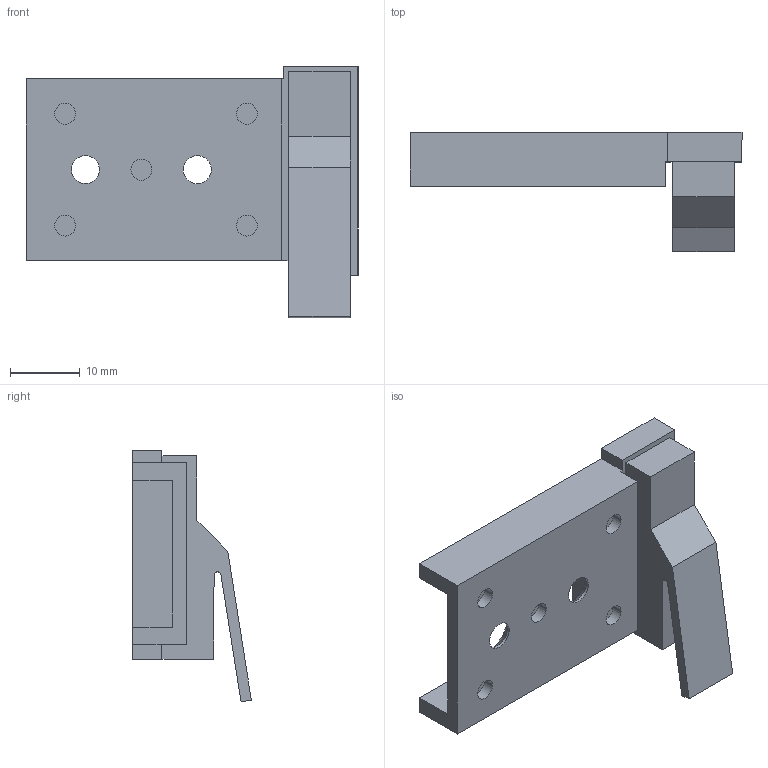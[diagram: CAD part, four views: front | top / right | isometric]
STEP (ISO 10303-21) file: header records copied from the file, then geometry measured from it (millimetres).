
FILE_DESCRIPTION (( 'STEP AP214' ), '1' );
FILE_NAME ('Rückwandhalter 7601 VHR Anschrauben.STEP', '2010-09-07T11:55:49', ( 'grass' ), ( '' ), 'SwSTEP 2.0', 'SolidWorks 2010', '' );
FILE_SCHEMA (( 'AUTOMOTIVE_DESIGN' ));
Length unit declared in the file: millimetre
Products named in the file (1): Rückwandhalter 7601 VHR Anschrauben
Bounding box: 47.5 x 16.99 x 35.99 mm (x, y, z)
Volume: 6817.8 mm3; surface area: 4979.1 mm2
Topology: 1 solids, 1 shells, 53 faces, 130 edges, 84 vertices
Faces by surface type: plane 30, cylinder 19, cone 4
Entity records: 1600 total; most frequent: DIRECTION 276, CARTESIAN_POINT 268, ORIENTED_EDGE 260, EDGE_CURVE 130, AXIS2_PLACEMENT_3D 92, LINE 92, VECTOR 92, VERTEX_POINT 84
